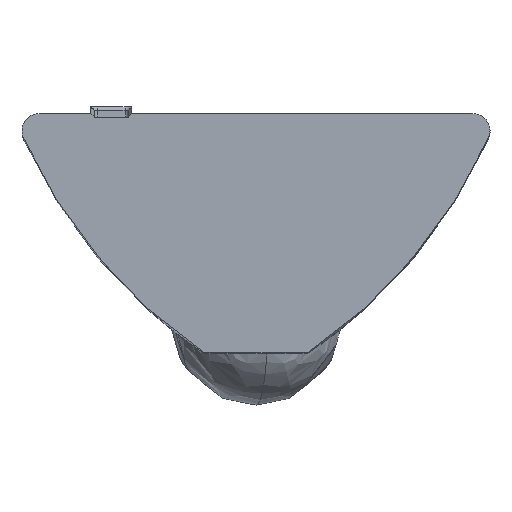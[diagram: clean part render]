
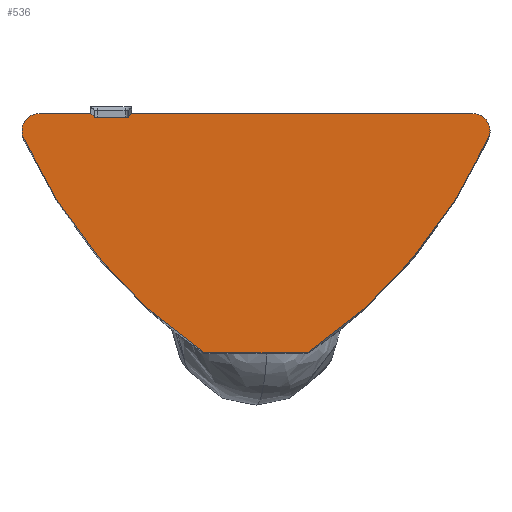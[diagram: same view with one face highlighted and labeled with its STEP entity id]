
A CAD part, top view. The second image highlights one B-rep face of the part: STEP entity #536.
In plain terms, the highlighted planar face has unit normal (0, 0, 1).
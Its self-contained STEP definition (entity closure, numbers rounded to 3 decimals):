
#59 = ORIENTED_EDGE ( 'NONE', *, *, #1595, .F. ) ;
#68 = EDGE_CURVE ( 'NONE', #3371, #1271, #3801, .T. ) ;
#95 = EDGE_CURVE ( 'NONE', #839, #5843, #2662, .T. ) ;
#181 = ORIENTED_EDGE ( 'NONE', *, *, #2877, .T. ) ;
#372 = EDGE_CURVE ( 'NONE', #3023, #3371, #4699, .T. ) ;
#373 = CARTESIAN_POINT ( 'NONE',  ( -55.853, 4.741, 34.168 ) ) ;
#517 = VERTEX_POINT ( 'NONE', #5645 ) ;
#536 = ADVANCED_FACE ( 'NONE', ( #6727 ), #961, .F. ) ;
#551 = EDGE_CURVE ( 'NONE', #4698, #517, #3125, .T. ) ;
#572 = CARTESIAN_POINT ( 'NONE',  ( -59.087, 11.641, 34.168 ) ) ;
#692 = CARTESIAN_POINT ( 'NONE',  ( -59.185, 11.739, 34.168 ) ) ;
#734 = CARTESIAN_POINT ( 'NONE',  ( -48.003, 11.241, 34.168 ) ) ;
#839 = VERTEX_POINT ( 'NONE', #4896 ) ;
#961 = PLANE ( 'NONE',  #6681 ) ;
#1029 = DIRECTION ( 'NONE',  ( -1., 0., 0. ) ) ;
#1271 = VERTEX_POINT ( 'NONE', #3388 ) ;
#1375 = VECTOR ( 'NONE', #3599, 1000. ) ;
#1465 = VECTOR ( 'NONE', #5388, 1000. ) ;
#1481 = VECTOR ( 'NONE', #6069, 1000. ) ;
#1550 = EDGE_CURVE ( 'NONE', #4698, #3023, #5139, .T. ) ;
#1566 = DIRECTION ( 'NONE',  ( -1., 0., 0. ) ) ;
#1578 = CIRCLE ( 'NONE', #6555, 15. ) ;
#1595 = EDGE_CURVE ( 'NONE', #1271, #2496, #3027, .T. ) ;
#1602 = CARTESIAN_POINT ( 'NONE',  ( -59.187, 11.741, 34.168 ) ) ;
#1789 = ORIENTED_EDGE ( 'NONE', *, *, #5384, .F. ) ;
#1807 = ORIENTED_EDGE ( 'NONE', *, *, #372, .F. ) ;
#1852 = CARTESIAN_POINT ( 'NONE',  ( -57.887, 11.843, 34.168 ) ) ;
#1855 = CARTESIAN_POINT ( 'NONE',  ( -47.547, 11.036, 34.168 ) ) ;
#1858 = VERTEX_POINT ( 'NONE', #4966 ) ;
#2025 = DIRECTION ( 'NONE',  ( -1., 0., 0. ) ) ;
#2027 = VECTOR ( 'NONE', #2503, 1000. ) ;
#2209 = DIRECTION ( 'NONE',  ( 0., 0., -1. ) ) ;
#2220 = DIRECTION ( 'NONE',  ( 0., 0., -1. ) ) ;
#2352 = DIRECTION ( 'NONE',  ( 1., 0., 0. ) ) ;
#2362 = CARTESIAN_POINT ( 'NONE',  ( -48.003, 4.741, 34.168 ) ) ;
#2496 = VERTEX_POINT ( 'NONE', #373 ) ;
#2503 = DIRECTION ( 'NONE',  ( -1., 0., 0. ) ) ;
#2580 = ORIENTED_EDGE ( 'NONE', *, *, #3687, .T. ) ;
#2581 = CARTESIAN_POINT ( 'NONE',  ( -48.003, 11.741, 34.168 ) ) ;
#2662 = LINE ( 'NONE', #572, #1375 ) ;
#2690 = CARTESIAN_POINT ( 'NONE',  ( -58.085, 11.641, 34.168 ) ) ;
#2726 = ORIENTED_EDGE ( 'NONE', *, *, #551, .T. ) ;
#2750 = ORIENTED_EDGE ( 'NONE', *, *, #68, .F. ) ;
#2877 = EDGE_CURVE ( 'NONE', #839, #5185, #3291, .T. ) ;
#2906 = AXIS2_PLACEMENT_3D ( 'NONE', #4027, #5850, #3186 ) ;
#3023 = VERTEX_POINT ( 'NONE', #5861 ) ;
#3027 = LINE ( 'NONE', #2362, #2027 ) ;
#3091 = DIRECTION ( 'NONE',  ( 0., 0., -1. ) ) ;
#3125 = LINE ( 'NONE', #3644, #3467 ) ;
#3186 = DIRECTION ( 'NONE',  ( 1., 0., 0. ) ) ;
#3291 = LINE ( 'NONE', #692, #1465 ) ;
#3371 = VERTEX_POINT ( 'NONE', #1855 ) ;
#3382 = EDGE_LOOP ( 'NONE', ( #6847, #181, #2580, #3714, #1789, #59, #2750, #1807, #6741, #2726, #4662 ) ) ;
#3388 = CARTESIAN_POINT ( 'NONE',  ( -52.853, 4.741, 34.168 ) ) ;
#3467 = VECTOR ( 'NONE', #1566, 1000. ) ;
#3599 = DIRECTION ( 'NONE',  ( 1., 0., 0. ) ) ;
#3644 = CARTESIAN_POINT ( 'NONE',  ( -48.003, 11.741, 34.168 ) ) ;
#3645 = VERTEX_POINT ( 'NONE', #5299 ) ;
#3685 = AXIS2_PLACEMENT_3D ( 'NONE', #5682, #4075, #2352 ) ;
#3687 = EDGE_CURVE ( 'NONE', #5185, #3645, #6775, .T. ) ;
#3709 = EDGE_CURVE ( 'NONE', #517, #5843, #6602, .T. ) ;
#3714 = ORIENTED_EDGE ( 'NONE', *, *, #5939, .F. ) ;
#3801 = CIRCLE ( 'NONE', #2906, 15. ) ;
#4027 = CARTESIAN_POINT ( 'NONE',  ( -61.229, 17.185, 34.168 ) ) ;
#4075 = DIRECTION ( 'NONE',  ( 0., 0., -1. ) ) ;
#4131 = VECTOR ( 'NONE', #2025, 1000. ) ;
#4281 = CARTESIAN_POINT ( 'NONE',  ( -47.477, 17.185, 34.168 ) ) ;
#4426 = CARTESIAN_POINT ( 'NONE',  ( -60.703, 11.241, 34.168 ) ) ;
#4662 = ORIENTED_EDGE ( 'NONE', *, *, #3709, .T. ) ;
#4698 = VERTEX_POINT ( 'NONE', #4713 ) ;
#4699 = CIRCLE ( 'NONE', #3685, 0.5 ) ;
#4713 = CARTESIAN_POINT ( 'NONE',  ( -48.003, 11.741, 34.168 ) ) ;
#4896 = CARTESIAN_POINT ( 'NONE',  ( -59.089, 11.641, 34.168 ) ) ;
#4919 = DIRECTION ( 'NONE',  ( 1., 0., 0. ) ) ;
#4966 = CARTESIAN_POINT ( 'NONE',  ( -61.159, 11.036, 34.168 ) ) ;
#5139 = CIRCLE ( 'NONE', #5671, 0.5 ) ;
#5185 = VERTEX_POINT ( 'NONE', #1602 ) ;
#5299 = CARTESIAN_POINT ( 'NONE',  ( -60.703, 11.741, 34.168 ) ) ;
#5384 = EDGE_CURVE ( 'NONE', #2496, #1858, #1578, .T. ) ;
#5388 = DIRECTION ( 'NONE',  ( -0.7, 0.714, 0. ) ) ;
#5396 = DIRECTION ( 'NONE',  ( 1., 0., 0. ) ) ;
#5449 = DIRECTION ( 'NONE',  ( 1., 0., 0. ) ) ;
#5570 = AXIS2_PLACEMENT_3D ( 'NONE', #4426, #6502, #4919 ) ;
#5645 = CARTESIAN_POINT ( 'NONE',  ( -57.987, 11.741, 34.168 ) ) ;
#5671 = AXIS2_PLACEMENT_3D ( 'NONE', #734, #2220, #5396 ) ;
#5682 = CARTESIAN_POINT ( 'NONE',  ( -48.003, 11.241, 34.168 ) ) ;
#5754 = CARTESIAN_POINT ( 'NONE',  ( -48.003, 11.241, 34.168 ) ) ;
#5843 = VERTEX_POINT ( 'NONE', #2690 ) ;
#5850 = DIRECTION ( 'NONE',  ( 0., 0., -1. ) ) ;
#5861 = CARTESIAN_POINT ( 'NONE',  ( -47.503, 11.241, 34.168 ) ) ;
#5939 = EDGE_CURVE ( 'NONE', #1858, #3645, #6114, .T. ) ;
#6069 = DIRECTION ( 'NONE',  ( -0.7, -0.714, 0. ) ) ;
#6114 = CIRCLE ( 'NONE', #5570, 0.5 ) ;
#6502 = DIRECTION ( 'NONE',  ( 0., 0., -1. ) ) ;
#6555 = AXIS2_PLACEMENT_3D ( 'NONE', #4281, #2209, #5449 ) ;
#6602 = LINE ( 'NONE', #1852, #1481 ) ;
#6681 = AXIS2_PLACEMENT_3D ( 'NONE', #5754, #3091, #1029 ) ;
#6727 = FACE_OUTER_BOUND ( 'NONE', #3382, .T. ) ;
#6741 = ORIENTED_EDGE ( 'NONE', *, *, #1550, .F. ) ;
#6775 = LINE ( 'NONE', #2581, #4131 ) ;
#6847 = ORIENTED_EDGE ( 'NONE', *, *, #95, .F. ) ;
